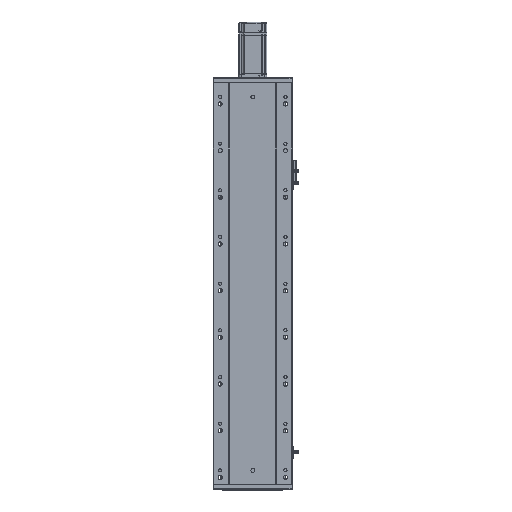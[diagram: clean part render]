
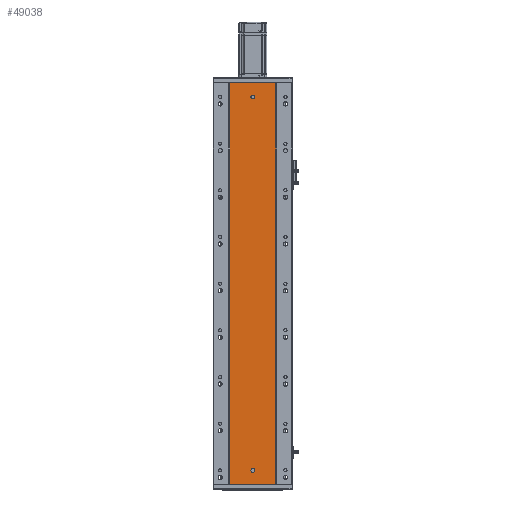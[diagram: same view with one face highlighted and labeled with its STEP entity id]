
A CAD part, front view. The second image highlights one B-rep face of the part: STEP entity #49038.
In plain terms, the highlighted planar face has unit normal (0, -1, 0).
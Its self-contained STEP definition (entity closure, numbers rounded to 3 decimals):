
#367 = VERTEX_POINT ( 'NONE', #69034 ) ;
#373 = VERTEX_POINT ( 'NONE', #69004 ) ;
#441 = VERTEX_POINT ( 'NONE', #69083 ) ;
#458 = VERTEX_POINT ( 'NONE', #69088 ) ;
#2038 = CARTESIAN_POINT ( 'NONE',  ( 86.97, 79.476, 860. ) ) ;
#2088 = CARTESIAN_POINT ( 'NONE',  ( 185.97, 79.476, 860. ) ) ;
#2093 = CARTESIAN_POINT ( 'NONE',  ( 185.97, 79.476, 0. ) ) ;
#2119 = CARTESIAN_POINT ( 'NONE',  ( 86.97, 79.476, 0. ) ) ;
#10893 = EDGE_CURVE ( 'NONE', #373, #367, #44332, .T. ) ;
#10902 = EDGE_CURVE ( 'NONE', #458, #441, #44323, .T. ) ;
#12261 = AXIS2_PLACEMENT_3D ( 'NONE', #57592, #57588, #57593 ) ;
#12306 = AXIS2_PLACEMENT_3D ( 'NONE', #57672, #57706, #57693 ) ;
#12664 = CIRCLE ( 'NONE', #31260, 4. ) ;
#12681 = LINE ( 'NONE', #14340, #12687 ) ;
#12687 = VECTOR ( 'NONE', #14279, 1000. ) ;
#12711 = CIRCLE ( 'NONE', #31367, 4. ) ;
#14068 = CARTESIAN_POINT ( 'NONE',  ( 0., 79.476, 0. ) ) ;
#14071 = DIRECTION ( 'NONE',  ( 1., 0., 0. ) ) ;
#14107 = CARTESIAN_POINT ( 'NONE',  ( 86.97, 79.476, 573.333 ) ) ;
#14130 = CARTESIAN_POINT ( 'NONE',  ( 86.97, 79.476, 286.667 ) ) ;
#14152 = CARTESIAN_POINT ( 'NONE',  ( 86.97, 79.476, 0. ) ) ;
#14160 = CARTESIAN_POINT ( 'NONE',  ( 86.97, 79.476, 860. ) ) ;
#14194 = CARTESIAN_POINT ( 'NONE',  ( 185.97, 79.476, 573.333 ) ) ;
#14221 = CARTESIAN_POINT ( 'NONE',  ( 185.97, 79.476, 0. ) ) ;
#14228 = CARTESIAN_POINT ( 'NONE',  ( 185.97, 79.476, 860. ) ) ;
#14233 = CARTESIAN_POINT ( 'NONE',  ( 185.97, 79.476, 286.667 ) ) ;
#14279 = DIRECTION ( 'NONE',  ( 1., 0., 0. ) ) ;
#14340 = CARTESIAN_POINT ( 'NONE',  ( 0., 79.476, 860. ) ) ;
#14387 = DIRECTION ( 'NONE',  ( 0., -1., 0. ) ) ;
#14420 = DIRECTION ( 'NONE',  ( 0., 0., -1. ) ) ;
#14422 = CARTESIAN_POINT ( 'NONE',  ( 136.47, 79.476, 30. ) ) ;
#14513 = CARTESIAN_POINT ( 'NONE',  ( 136.47, 79.476, 830. ) ) ;
#14537 = DIRECTION ( 'NONE',  ( 0., 0., -1. ) ) ;
#14562 = DIRECTION ( 'NONE',  ( 0., -1., 0. ) ) ;
#23925 = VECTOR ( 'NONE', #14071, 1000. ) ;
#23948 = LINE ( 'NONE', #14068, #23925 ) ;
#30131 = EDGE_CURVE ( 'NONE', #45776, #45841, #23948, .T. ) ;
#30147 = EDGE_CURVE ( 'NONE', #45690, #45776, #44052, .T. ) ;
#30204 = EDGE_CURVE ( 'NONE', #45907, #45841, #44050, .T. ) ;
#30274 = EDGE_CURVE ( 'NONE', #45690, #45907, #12681, .T. ) ;
#30299 = EDGE_CURVE ( 'NONE', #367, #373, #12664, .T. ) ;
#30427 = EDGE_CURVE ( 'NONE', #441, #458, #12711, .T. ) ;
#31260 = AXIS2_PLACEMENT_3D ( 'NONE', #14422, #14387, #14420 ) ;
#31367 = AXIS2_PLACEMENT_3D ( 'NONE', #14513, #14562, #14537 ) ;
#41569 = ORIENTED_EDGE ( 'NONE', *, *, #30204, .F. ) ;
#41578 = ORIENTED_EDGE ( 'NONE', *, *, #30131, .T. ) ;
#41600 = ORIENTED_EDGE ( 'NONE', *, *, #30147, .T. ) ;
#41601 = ORIENTED_EDGE ( 'NONE', *, *, #30299, .F. ) ;
#42801 = ORIENTED_EDGE ( 'NONE', *, *, #10893, .F. ) ;
#42808 = ORIENTED_EDGE ( 'NONE', *, *, #10902, .F. ) ;
#42825 = ORIENTED_EDGE ( 'NONE', *, *, #30427, .F. ) ;
#42827 = ORIENTED_EDGE ( 'NONE', *, *, #30274, .F. ) ;
#44050 = B_SPLINE_CURVE_WITH_KNOTS ( 'NONE', 3,
 ( #14228, #14194, #14233, #14221 ),
 .UNSPECIFIED., .F., .F.,
 ( 4, 4 ),
 ( 0., 1. ),
 .UNSPECIFIED. ) ;
#44052 = B_SPLINE_CURVE_WITH_KNOTS ( 'NONE', 3,
 ( #14160, #14107, #14130, #14152 ),
 .UNSPECIFIED., .F., .F.,
 ( 4, 4 ),
 ( 0., 1. ),
 .UNSPECIFIED. ) ;
#44323 = CIRCLE ( 'NONE', #12306, 4. ) ;
#44332 = CIRCLE ( 'NONE', #12261, 4. ) ;
#45690 = VERTEX_POINT ( 'NONE', #2038 ) ;
#45776 = VERTEX_POINT ( 'NONE', #2119 ) ;
#45841 = VERTEX_POINT ( 'NONE', #2093 ) ;
#45907 = VERTEX_POINT ( 'NONE', #2088 ) ;
#49038 = ADVANCED_FACE ( 'NONE', ( #65758, #65773, #65753 ), #63518, .F. ) ;
#57588 = DIRECTION ( 'NONE',  ( 0., -1., 0. ) ) ;
#57592 = CARTESIAN_POINT ( 'NONE',  ( 136.47, 79.476, 30. ) ) ;
#57593 = DIRECTION ( 'NONE',  ( 0., 0., -1. ) ) ;
#57672 = CARTESIAN_POINT ( 'NONE',  ( 136.47, 79.476, 830. ) ) ;
#57693 = DIRECTION ( 'NONE',  ( 0., 0., -1. ) ) ;
#57706 = DIRECTION ( 'NONE',  ( 0., -1., 0. ) ) ;
#62395 = EDGE_LOOP ( 'NONE', ( #41578, #41569, #42827, #41600 ) ) ;
#62421 = EDGE_LOOP ( 'NONE', ( #41601, #42801 ) ) ;
#62425 = EDGE_LOOP ( 'NONE', ( #42825, #42808 ) ) ;
#63513 = CARTESIAN_POINT ( 'NONE',  ( 0., 79.476, 860. ) ) ;
#63516 = DIRECTION ( 'NONE',  ( 0., 0., 1. ) ) ;
#63518 = PLANE ( 'NONE',  #67136 ) ;
#63538 = DIRECTION ( 'NONE',  ( 0., 1., 0. ) ) ;
#65753 = FACE_OUTER_BOUND ( 'NONE', #62395, .T. ) ;
#65758 = FACE_BOUND ( 'NONE', #62425, .T. ) ;
#65773 = FACE_BOUND ( 'NONE', #62421, .T. ) ;
#67136 = AXIS2_PLACEMENT_3D ( 'NONE', #63513, #63538, #63516 ) ;
#69004 = CARTESIAN_POINT ( 'NONE',  ( 136.47, 79.476, 34. ) ) ;
#69034 = CARTESIAN_POINT ( 'NONE',  ( 136.47, 79.476, 26. ) ) ;
#69083 = CARTESIAN_POINT ( 'NONE',  ( 136.47, 79.476, 826. ) ) ;
#69088 = CARTESIAN_POINT ( 'NONE',  ( 136.47, 79.476, 834. ) ) ;
